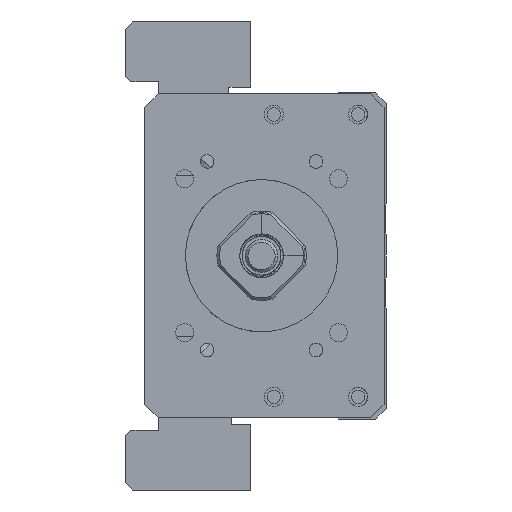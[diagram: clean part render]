
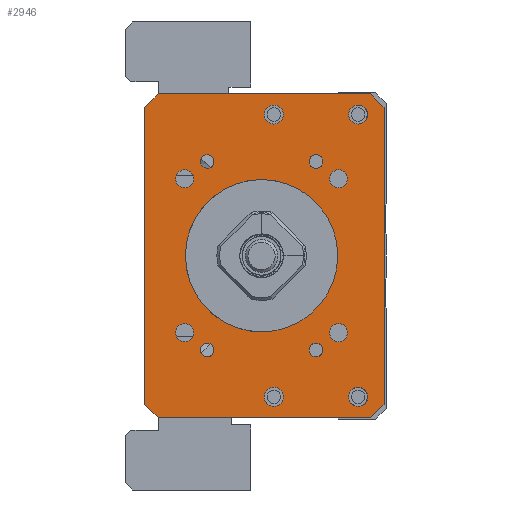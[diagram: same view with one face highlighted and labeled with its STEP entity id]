
A CAD part, left-side view. The second image highlights one B-rep face of the part: STEP entity #2946.
In plain terms, the highlighted planar face has unit normal (-1, 0, 0).
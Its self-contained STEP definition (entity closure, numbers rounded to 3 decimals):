
#1128=LINE('',#15995,#2029);
#1130=LINE('',#16019,#2031);
#1131=LINE('',#16021,#2032);
#1132=LINE('',#16023,#2033);
#1133=LINE('',#16025,#2034);
#1134=LINE('',#16027,#2035);
#1135=LINE('',#16029,#2036);
#1136=LINE('',#16031,#2037);
#2029=VECTOR('',#12793,1.);
#2031=VECTOR('',#12817,1.);
#2032=VECTOR('',#12818,1.);
#2033=VECTOR('',#12819,1.);
#2034=VECTOR('',#12820,1.);
#2035=VECTOR('',#12821,1.);
#2036=VECTOR('',#12822,1.);
#2037=VECTOR('',#12823,1.);
#2946=ADVANCED_FACE('',(#4068,#4069,#4070,#4071,#4072,#4073,#4074,#4075,
#4076,#4077,#4078,#4079,#4080,#4081),#3643,.F.);
#3643=PLANE('',#11664);
#4068=FACE_BOUND('',#4593,.T.);
#4069=FACE_BOUND('',#4594,.T.);
#4070=FACE_BOUND('',#4595,.T.);
#4071=FACE_BOUND('',#4596,.T.);
#4072=FACE_BOUND('',#4597,.T.);
#4073=FACE_BOUND('',#4598,.T.);
#4074=FACE_BOUND('',#4599,.T.);
#4075=FACE_BOUND('',#4600,.T.);
#4076=FACE_BOUND('',#4601,.T.);
#4077=FACE_BOUND('',#4602,.T.);
#4078=FACE_BOUND('',#4603,.T.);
#4079=FACE_BOUND('',#4604,.T.);
#4080=FACE_BOUND('',#4605,.T.);
#4081=FACE_BOUND('',#4606,.T.);
#4593=EDGE_LOOP('',(#5608));
#4594=EDGE_LOOP('',(#5609));
#4595=EDGE_LOOP('',(#5610));
#4596=EDGE_LOOP('',(#5611));
#4597=EDGE_LOOP('',(#5612));
#4598=EDGE_LOOP('',(#5613));
#4599=EDGE_LOOP('',(#5614));
#4600=EDGE_LOOP('',(#5615));
#4601=EDGE_LOOP('',(#5616));
#4602=EDGE_LOOP('',(#5617,#5618,#5619,#5620,#5621,#5622,#5623,#5624));
#4603=EDGE_LOOP('',(#5625));
#4604=EDGE_LOOP('',(#5626));
#4605=EDGE_LOOP('',(#5627));
#4606=EDGE_LOOP('',(#5628));
#5608=ORIENTED_EDGE('',*,*,#9734,.F.);
#5609=ORIENTED_EDGE('',*,*,#9735,.F.);
#5610=ORIENTED_EDGE('',*,*,#9736,.F.);
#5611=ORIENTED_EDGE('',*,*,#9737,.F.);
#5612=ORIENTED_EDGE('',*,*,#9738,.F.);
#5613=ORIENTED_EDGE('',*,*,#9739,.T.);
#5614=ORIENTED_EDGE('',*,*,#9740,.F.);
#5615=ORIENTED_EDGE('',*,*,#9741,.F.);
#5616=ORIENTED_EDGE('',*,*,#9742,.F.);
#5617=ORIENTED_EDGE('',*,*,#9731,.T.);
#5618=ORIENTED_EDGE('',*,*,#9743,.T.);
#5619=ORIENTED_EDGE('',*,*,#9744,.F.);
#5620=ORIENTED_EDGE('',*,*,#9745,.T.);
#5621=ORIENTED_EDGE('',*,*,#9746,.F.);
#5622=ORIENTED_EDGE('',*,*,#9747,.T.);
#5623=ORIENTED_EDGE('',*,*,#9748,.T.);
#5624=ORIENTED_EDGE('',*,*,#9749,.T.);
#5625=ORIENTED_EDGE('',*,*,#9750,.F.);
#5626=ORIENTED_EDGE('',*,*,#9751,.F.);
#5627=ORIENTED_EDGE('',*,*,#9752,.F.);
#5628=ORIENTED_EDGE('',*,*,#9711,.F.);
#8626=VERTEX_POINT('',#15934);
#8646=VERTEX_POINT('',#15994);
#8647=VERTEX_POINT('',#15996);
#8649=VERTEX_POINT('',#16002);
#8650=VERTEX_POINT('',#16004);
#8651=VERTEX_POINT('',#16006);
#8652=VERTEX_POINT('',#16008);
#8653=VERTEX_POINT('',#16010);
#8654=VERTEX_POINT('',#16012);
#8655=VERTEX_POINT('',#16014);
#8656=VERTEX_POINT('',#16016);
#8657=VERTEX_POINT('',#16018);
#8658=VERTEX_POINT('',#16020);
#8659=VERTEX_POINT('',#16022);
#8660=VERTEX_POINT('',#16024);
#8661=VERTEX_POINT('',#16026);
#8662=VERTEX_POINT('',#16028);
#8663=VERTEX_POINT('',#16030);
#8664=VERTEX_POINT('',#16033);
#8665=VERTEX_POINT('',#16035);
#8666=VERTEX_POINT('',#16037);
#9711=EDGE_CURVE('',#8626,#8626,#11232,.T.);
#9731=EDGE_CURVE('',#8647,#8646,#1128,.T.);
#9734=EDGE_CURVE('',#8649,#8649,#11241,.T.);
#9735=EDGE_CURVE('',#8650,#8650,#11242,.T.);
#9736=EDGE_CURVE('',#8651,#8651,#11243,.T.);
#9737=EDGE_CURVE('',#8652,#8652,#11244,.T.);
#9738=EDGE_CURVE('',#8653,#8653,#11245,.T.);
#9739=EDGE_CURVE('',#8654,#8654,#11246,.T.);
#9740=EDGE_CURVE('',#8655,#8655,#11247,.T.);
#9741=EDGE_CURVE('',#8656,#8656,#11248,.T.);
#9742=EDGE_CURVE('',#8657,#8657,#11249,.T.);
#9743=EDGE_CURVE('',#8646,#8658,#1130,.T.);
#9744=EDGE_CURVE('',#8659,#8658,#1131,.T.);
#9745=EDGE_CURVE('',#8659,#8660,#1132,.T.);
#9746=EDGE_CURVE('',#8661,#8660,#1133,.T.);
#9747=EDGE_CURVE('',#8661,#8662,#1134,.T.);
#9748=EDGE_CURVE('',#8662,#8663,#1135,.T.);
#9749=EDGE_CURVE('',#8663,#8647,#1136,.T.);
#9750=EDGE_CURVE('',#8664,#8664,#11250,.T.);
#9751=EDGE_CURVE('',#8665,#8665,#11251,.T.);
#9752=EDGE_CURVE('',#8666,#8666,#11252,.T.);
#11232=CIRCLE('',#11641,14.);
#11241=CIRCLE('',#11652,1.65);
#11242=CIRCLE('',#11653,1.65);
#11243=CIRCLE('',#11654,1.65);
#11244=CIRCLE('',#11655,1.65);
#11245=CIRCLE('',#11656,1.25);
#11246=CIRCLE('',#11657,1.75);
#11247=CIRCLE('',#11658,1.25);
#11248=CIRCLE('',#11659,1.75);
#11249=CIRCLE('',#11660,1.25);
#11250=CIRCLE('',#11661,1.75);
#11251=CIRCLE('',#11662,1.75);
#11252=CIRCLE('',#11663,1.25);
#11641=AXIS2_PLACEMENT_3D('',#15933,#12767,#12768);
#11652=AXIS2_PLACEMENT_3D('',#16001,#12799,#12800);
#11653=AXIS2_PLACEMENT_3D('',#16003,#12801,#12802);
#11654=AXIS2_PLACEMENT_3D('',#16005,#12803,#12804);
#11655=AXIS2_PLACEMENT_3D('',#16007,#12805,#12806);
#11656=AXIS2_PLACEMENT_3D('',#16009,#12807,#12808);
#11657=AXIS2_PLACEMENT_3D('',#16011,#12809,#12810);
#11658=AXIS2_PLACEMENT_3D('',#16013,#12811,#12812);
#11659=AXIS2_PLACEMENT_3D('',#16015,#12813,#12814);
#11660=AXIS2_PLACEMENT_3D('',#16017,#12815,#12816);
#11661=AXIS2_PLACEMENT_3D('',#16032,#12824,#12825);
#11662=AXIS2_PLACEMENT_3D('',#16034,#12826,#12827);
#11663=AXIS2_PLACEMENT_3D('',#16036,#12828,#12829);
#11664=AXIS2_PLACEMENT_3D('',#16038,#12830,#12831);
#12767=DIRECTION('',(-1.,0.,0.));
#12768=DIRECTION('',(0.,1.,0.));
#12793=DIRECTION('',(0.,0.,-1.));
#12799=DIRECTION('',(-1.,0.,0.));
#12800=DIRECTION('',(0.,0.,1.));
#12801=DIRECTION('',(-1.,0.,0.));
#12802=DIRECTION('',(0.,0.,1.));
#12803=DIRECTION('',(-1.,0.,0.));
#12804=DIRECTION('',(0.,0.,1.));
#12805=DIRECTION('',(-1.,0.,0.));
#12806=DIRECTION('',(0.,0.,1.));
#12807=DIRECTION('',(-1.,0.,0.));
#12808=DIRECTION('',(0.,1.,0.));
#12809=DIRECTION('',(1.,0.,0.));
#12810=DIRECTION('',(0.,0.,1.));
#12811=DIRECTION('',(-1.,0.,0.));
#12812=DIRECTION('',(0.,1.,0.));
#12813=DIRECTION('',(-1.,0.,0.));
#12814=DIRECTION('',(0.,0.,1.));
#12815=DIRECTION('',(-1.,0.,0.));
#12816=DIRECTION('',(0.,1.,0.));
#12817=DIRECTION('',(0.,-0.707,-0.707));
#12818=DIRECTION('',(0.,1.,0.));
#12819=DIRECTION('',(0.,-0.707,0.707));
#12820=DIRECTION('',(0.,0.,-1.));
#12821=DIRECTION('',(0.,0.707,0.707));
#12822=DIRECTION('',(0.,1.,0.));
#12823=DIRECTION('',(0.,0.707,-0.707));
#12824=DIRECTION('',(-1.,0.,0.));
#12825=DIRECTION('',(0.,0.,1.));
#12826=DIRECTION('',(-1.,0.,0.));
#12827=DIRECTION('',(0.,0.,1.));
#12828=DIRECTION('',(-1.,0.,0.));
#12829=DIRECTION('',(0.,1.,0.));
#12830=DIRECTION('',(1.,0.,0.));
#12831=DIRECTION('',(0.,1.,0.));
#15933=CARTESIAN_POINT('',(-211.,0.,-100.));
#15934=CARTESIAN_POINT('',(-211.,14.,-100.));
#15994=CARTESIAN_POINT('',(-211.,21.499,-127.25));
#15995=CARTESIAN_POINT('',(-211.,21.499,-70.25));
#15996=CARTESIAN_POINT('',(-211.,21.499,-72.75));
#16001=CARTESIAN_POINT('',(-211.,14.142,-85.858));
#16002=CARTESIAN_POINT('',(-211.,14.142,-84.208));
#16003=CARTESIAN_POINT('',(-211.,-14.142,-85.858));
#16004=CARTESIAN_POINT('',(-211.,-14.142,-84.208));
#16005=CARTESIAN_POINT('',(-211.,14.142,-114.142));
#16006=CARTESIAN_POINT('',(-211.,14.142,-112.492));
#16007=CARTESIAN_POINT('',(-211.,-14.142,-114.142));
#16008=CARTESIAN_POINT('',(-211.,-14.142,-112.492));
#16009=CARTESIAN_POINT('',(-211.,-10.,-117.321));
#16010=CARTESIAN_POINT('',(-211.,-8.75,-117.321));
#16011=CARTESIAN_POINT('',(-211.,-2.25,-125.936));
#16012=CARTESIAN_POINT('',(-211.,-2.25,-124.186));
#16013=CARTESIAN_POINT('',(-211.,10.,-82.679));
#16014=CARTESIAN_POINT('',(-211.,11.25,-82.679));
#16015=CARTESIAN_POINT('',(-211.,-2.25,-74.064));
#16016=CARTESIAN_POINT('',(-211.,-2.25,-72.314));
#16017=CARTESIAN_POINT('',(-211.,10.,-117.321));
#16018=CARTESIAN_POINT('',(-211.,11.25,-117.321));
#16019=CARTESIAN_POINT('',(-211.,18.999,-129.75));
#16020=CARTESIAN_POINT('',(-211.,18.999,-129.75));
#16021=CARTESIAN_POINT('',(-211.,-22.501,-129.75));
#16022=CARTESIAN_POINT('',(-211.,-20.001,-129.75));
#16023=CARTESIAN_POINT('',(-211.,-22.501,-127.25));
#16024=CARTESIAN_POINT('',(-211.,-22.501,-127.25));
#16025=CARTESIAN_POINT('',(-211.,-22.501,-70.25));
#16026=CARTESIAN_POINT('',(-211.,-22.501,-72.75));
#16027=CARTESIAN_POINT('',(-211.,-22.501,-72.75));
#16028=CARTESIAN_POINT('',(-211.,-20.001,-70.25));
#16029=CARTESIAN_POINT('',(-211.,-22.501,-70.25));
#16030=CARTESIAN_POINT('',(-211.,18.999,-70.25));
#16031=CARTESIAN_POINT('',(-211.,18.999,-70.25));
#16032=CARTESIAN_POINT('',(-211.,-17.75,-74.064));
#16033=CARTESIAN_POINT('',(-211.,-17.75,-72.314));
#16034=CARTESIAN_POINT('',(-211.,-17.75,-125.936));
#16035=CARTESIAN_POINT('',(-211.,-17.75,-124.186));
#16036=CARTESIAN_POINT('',(-211.,-10.,-82.679));
#16037=CARTESIAN_POINT('',(-211.,-8.75,-82.679));
#16038=CARTESIAN_POINT('',(-211.,-22.501,-70.25));
